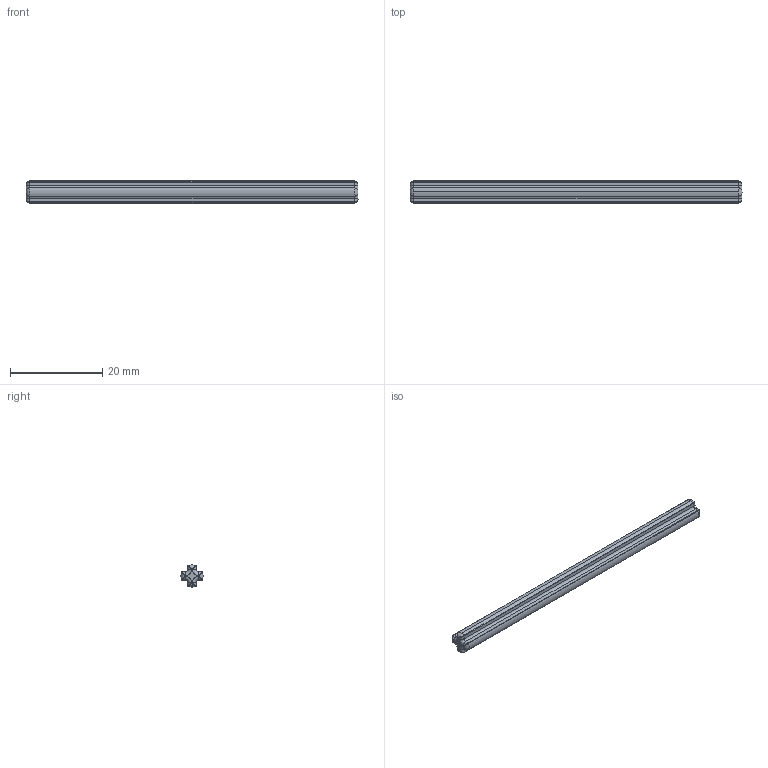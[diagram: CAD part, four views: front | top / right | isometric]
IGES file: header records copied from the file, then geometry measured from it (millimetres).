
Start section: SolidWorks IGES file using analytic representation for surfaces
Global section: file name: C:\Users\PC\Desktop\Lego Technik Gear and Axles\Axles\STEP, IGES, STL\60485 MdStone Technic Axle 9.IGS; native system: SolidWorks 2014; preprocessor: SolidWorks 2014; author: PC; date: 150218.234400; units: millimetre
Bounding box: 72 x 4.79 x 4.8 mm (x, y, z)
Surface area: 1238.3 mm2 (no closed solid volume)
Topology: 0 solids, 0 shells, 77 faces, 490 edges, 474 vertices
Faces by surface type: bspline 44, revolution 33
